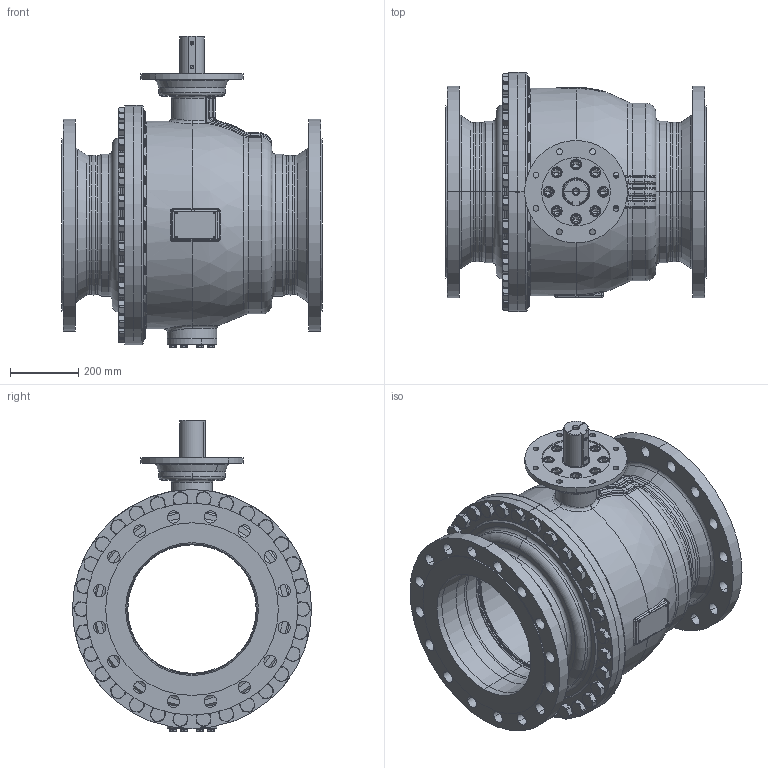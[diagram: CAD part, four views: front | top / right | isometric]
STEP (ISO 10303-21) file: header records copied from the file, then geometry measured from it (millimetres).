
FILE_DESCRIPTION((''),'2;1');
FILE_NAME('KHI-F_400_PN025-F25-P_SW0001','2026-02-05T16:05:54',('fischerkl'),('KLINGER'),'CREO PARAMETRIC BY PTC INC, 2023014','CREO PARAMETRIC BY PTC INC, 2023014','');
FILE_SCHEMA(('CONFIG_CONTROL_DESIGN'));
Products named in the file (1): KHI-F_400_PN025-F25-P_SW0001
Bounding box: 762 x 700 x 911.3 mm (x, y, z)
Volume: 57633259.9 mm3; surface area: 6972377.5 mm2
Topology: 1 solids, 4 shells, 3581 faces, 9022 edges, 5636 vertices
Faces by surface type: plane 1771, cylinder 861, cone 508, torus 311, bspline 99, sphere 31
Entity records: 153316 total; most frequent: CARTESIAN_POINT 68071, ORIENTED_EDGE 17992, DIRECTION 17656, EDGE_CURVE 8996, AXIS2_PLACEMENT_3D 6778, VERTEX_POINT 5636, VECTOR 4100, LINE 4100
